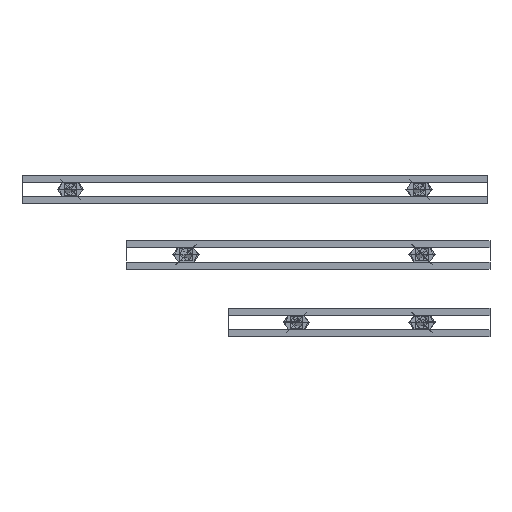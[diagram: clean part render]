
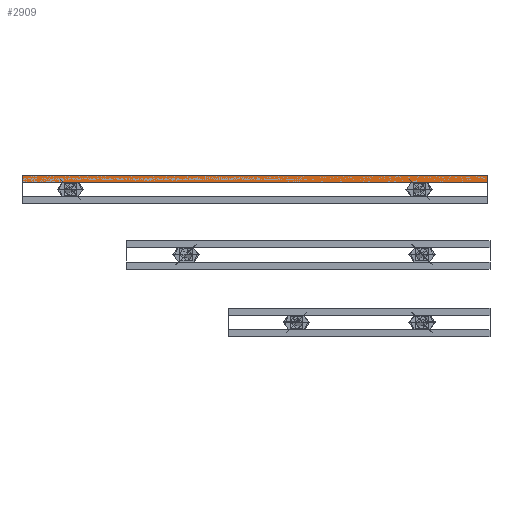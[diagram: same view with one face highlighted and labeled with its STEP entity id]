
A CAD part, top view. The second image highlights one B-rep face of the part: STEP entity #2909.
In plain terms, the highlighted free-form (B-spline) face has degree [2, 3] with [5, 4] control points.
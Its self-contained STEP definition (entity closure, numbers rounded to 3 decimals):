
#2909=ADVANCED_FACE($,(#3203),#6899,.T.);
#3203=FACE_OUTER_BOUND($,#3503,.T.);
#3503=EDGE_LOOP($,(#4103,#4104,#4105,#4106));
#4103=ORIENTED_EDGE($,*,*,#5255,.F.);
#4104=ORIENTED_EDGE($,*,*,#5253,.T.);
#4105=ORIENTED_EDGE($,*,*,#5257,.F.);
#4106=ORIENTED_EDGE($,*,*,#5256,.F.);
#5253=EDGE_CURVE($,#6223,#6224,#7995,.T.);
#5255=EDGE_CURVE($,#6223,#6225,#7997,.T.);
#5256=EDGE_CURVE($,#6225,#6226,#7998,.T.);
#5257=EDGE_CURVE($,#6226,#6224,#7999,.T.);
#6223=VERTEX_POINT($,#12919);
#6224=VERTEX_POINT($,#12920);
#6225=VERTEX_POINT($,#12921);
#6226=VERTEX_POINT($,#12922);
#6899=(
BOUNDED_SURFACE()
B_SPLINE_SURFACE(2,3,((#12879,#12880,#12881,#12882),(#12883,#12884,#12885,
#12886),(#12887,#12888,#12889,#12890),(#12891,#12892,#12893,#12894),(#12895,
#12896,#12897,#12898)),.UNSPECIFIED.,.F.,.F.,.F.)
B_SPLINE_SURFACE_WITH_KNOTS((3,2,3),(4,4),(5.498,8.247,
10.996),(0.,228.),.UNSPECIFIED.)
GEOMETRIC_REPRESENTATION_ITEM()
RATIONAL_B_SPLINE_SURFACE(((1.,1.,1.,1.),(0.707,0.707,
0.707,0.707),(1.,1.,1.,1.),(0.707,0.707,
0.707,0.707),(1.,1.,1.,1.)))
REPRESENTATION_ITEM($)
SURFACE()
);
#7995=(
BOUNDED_CURVE()
B_SPLINE_CURVE(3,(#12851,#12852,#12853,#12854),.UNSPECIFIED.,.F.,.F.)
B_SPLINE_CURVE_WITH_KNOTS((4,4),(0.,228.),.UNSPECIFIED.)
CURVE()
GEOMETRIC_REPRESENTATION_ITEM()
RATIONAL_B_SPLINE_CURVE((1.,1.,1.,1.))
REPRESENTATION_ITEM($)
);
#7997=(
BOUNDED_CURVE()
B_SPLINE_CURVE(2,(#12860,#12861,#12862,#12863,#12864),.UNSPECIFIED.,.F.,
.F.)
B_SPLINE_CURVE_WITH_KNOTS((3,2,3),(-10.996,-8.247,-5.498),
.UNSPECIFIED.)
CURVE()
GEOMETRIC_REPRESENTATION_ITEM()
RATIONAL_B_SPLINE_CURVE((1.,0.707,1.,0.707,1.))
REPRESENTATION_ITEM($)
);
#7998=(
BOUNDED_CURVE()
B_SPLINE_CURVE(3,(#12865,#12866,#12867,#12868),.UNSPECIFIED.,.F.,.F.)
B_SPLINE_CURVE_WITH_KNOTS((4,4),(0.,228.),.UNSPECIFIED.)
CURVE()
GEOMETRIC_REPRESENTATION_ITEM()
RATIONAL_B_SPLINE_CURVE((1.,1.,1.,1.))
REPRESENTATION_ITEM($)
);
#7999=(
BOUNDED_CURVE()
B_SPLINE_CURVE(2,(#12869,#12870,#12871,#12872,#12873),.UNSPECIFIED.,.F.,
.F.)
B_SPLINE_CURVE_WITH_KNOTS((3,2,3),(5.498,8.247,10.996),
.UNSPECIFIED.)
CURVE()
GEOMETRIC_REPRESENTATION_ITEM()
RATIONAL_B_SPLINE_CURVE((1.,0.707,1.,0.707,1.))
REPRESENTATION_ITEM($)
);
#12851=CARTESIAN_POINT($,(114.,3.5,0.));
#12852=CARTESIAN_POINT($,(38.,3.5,0.));
#12853=CARTESIAN_POINT($,(-38.,3.5,0.));
#12854=CARTESIAN_POINT($,(-114.,3.5,0.));
#12860=CARTESIAN_POINT($,(114.,3.5,0.));
#12861=CARTESIAN_POINT($,(114.,3.5,-1.75));
#12862=CARTESIAN_POINT($,(114.,5.25,-1.75));
#12863=CARTESIAN_POINT($,(114.,7.,-1.75));
#12864=CARTESIAN_POINT($,(114.,7.,0.));
#12865=CARTESIAN_POINT($,(114.,7.,0.));
#12866=CARTESIAN_POINT($,(38.,7.,0.));
#12867=CARTESIAN_POINT($,(-38.,7.,0.));
#12868=CARTESIAN_POINT($,(-114.,7.,0.));
#12869=CARTESIAN_POINT($,(-114.,7.,0.));
#12870=CARTESIAN_POINT($,(-114.,7.,-1.75));
#12871=CARTESIAN_POINT($,(-114.,5.25,-1.75));
#12872=CARTESIAN_POINT($,(-114.,3.5,-1.75));
#12873=CARTESIAN_POINT($,(-114.,3.5,0.));
#12879=CARTESIAN_POINT($,(114.,7.,0.));
#12880=CARTESIAN_POINT($,(38.,7.,0.));
#12881=CARTESIAN_POINT($,(-38.,7.,0.));
#12882=CARTESIAN_POINT($,(-114.,7.,0.));
#12883=CARTESIAN_POINT($,(114.,7.,-1.75));
#12884=CARTESIAN_POINT($,(38.,7.,-1.75));
#12885=CARTESIAN_POINT($,(-38.,7.,-1.75));
#12886=CARTESIAN_POINT($,(-114.,7.,-1.75));
#12887=CARTESIAN_POINT($,(114.,5.25,-1.75));
#12888=CARTESIAN_POINT($,(38.,5.25,-1.75));
#12889=CARTESIAN_POINT($,(-38.,5.25,-1.75));
#12890=CARTESIAN_POINT($,(-114.,5.25,-1.75));
#12891=CARTESIAN_POINT($,(114.,3.5,-1.75));
#12892=CARTESIAN_POINT($,(38.,3.5,-1.75));
#12893=CARTESIAN_POINT($,(-38.,3.5,-1.75));
#12894=CARTESIAN_POINT($,(-114.,3.5,-1.75));
#12895=CARTESIAN_POINT($,(114.,3.5,0.));
#12896=CARTESIAN_POINT($,(38.,3.5,0.));
#12897=CARTESIAN_POINT($,(-38.,3.5,0.));
#12898=CARTESIAN_POINT($,(-114.,3.5,0.));
#12919=CARTESIAN_POINT($,(114.,3.5,0.));
#12920=CARTESIAN_POINT($,(-114.,3.5,0.));
#12921=CARTESIAN_POINT($,(114.,7.,0.));
#12922=CARTESIAN_POINT($,(-114.,7.,0.));
